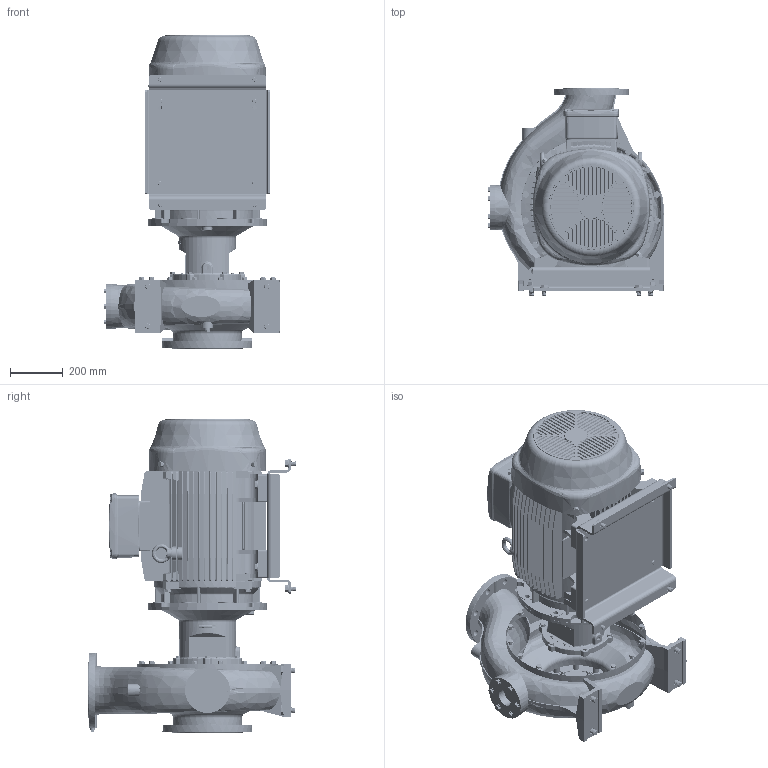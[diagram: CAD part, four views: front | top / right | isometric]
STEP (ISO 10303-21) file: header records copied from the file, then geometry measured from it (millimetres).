
FILE_DESCRIPTION (( 'STEP AP214' ), '1' );
FILE_NAME ('GSD4 150-400_37 & 45_(225SM)_W21.STEP', '2026-07-01T02:31:15', ( '' ), ( '' ), 'SwSTEP 2.0', 'SolidWorks 2024', '' );
FILE_SCHEMA (( 'AUTOMOTIVE_DESIGN' ));
Length unit declared in the file: millimetre
Products named in the file (9): Parametric bolt_SFT-A403B; GSD4 150-400_37 & 45_(225SM)_W21; 150-400-225S_M_ﾃﾞﾌｫﾙﾄ; Parametric Flat Washer_M16; Parametric Flat Washer_M20; 225S_M4P IE3_W21T_B35; CGS11-5283; Parametric bolt_SFT-A351B; Parametric bolt_SFT-A359B
Assembly tree (27 placements, depth 2):
  GSD4 150-400_37 & 45_(225SM)_W21
    150-400-225S_M_ﾃﾞﾌｫﾙﾄ
    225S_M4P IE3_W21T_B35
    CGS11-5283
    Parametric bolt_SFT-A359B  x4
    Parametric Flat Washer_M16  x8
    Parametric bolt_SFT-A351B  x4
    Parametric bolt_SFT-A403B  x4
    Parametric Flat Washer_M20  x4
Bounding box: 667.85 x 783 x 1184.5 mm (x, y, z)
Volume: 172061309.8 mm3; surface area: 5744175.4 mm2
Topology: 35 solids, 40 shells, 4406 faces, 11569 edges, 7373 vertices
Faces by surface type: plane 1815, cylinder 1493, cone 548, bspline 285, torus 247, sphere 18
Entity records: 179510 total; most frequent: CARTESIAN_POINT 89058, ORIENTED_EDGE 19816, DIRECTION 17929, EDGE_CURVE 9908, AXIS2_PLACEMENT_3D 6563, VERTEX_POINT 6302, VECTOR 4803, LINE 4803
